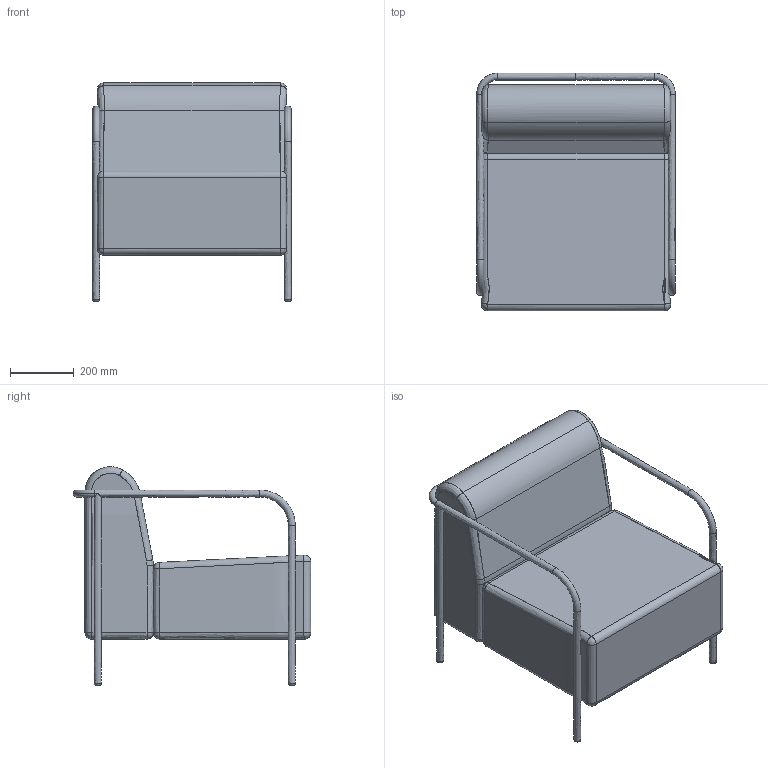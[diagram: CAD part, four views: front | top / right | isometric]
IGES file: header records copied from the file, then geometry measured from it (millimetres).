
Global section: file name: C:\Users\W10\Desktop\Capdell\DAVID_CAPDELL\BRIDGE\BRIDGE_COLLECTION_EXPORTABLES\817\817.igs; native system: Rhinoceros ( Mar  4 2014 ); preprocessor: Trout Lake IGES 012 Mar  4 2014; date: 201027.082449; units: millimetre
Bounding box: 624 x 746.8 x 686.34 mm (x, y, z)
Surface area: 2097925.6 mm2 (no closed solid volume)
Topology: 0 solids, 0 shells, 92 faces, 3126 edges, 3101 vertices
Faces by surface type: bspline 92
